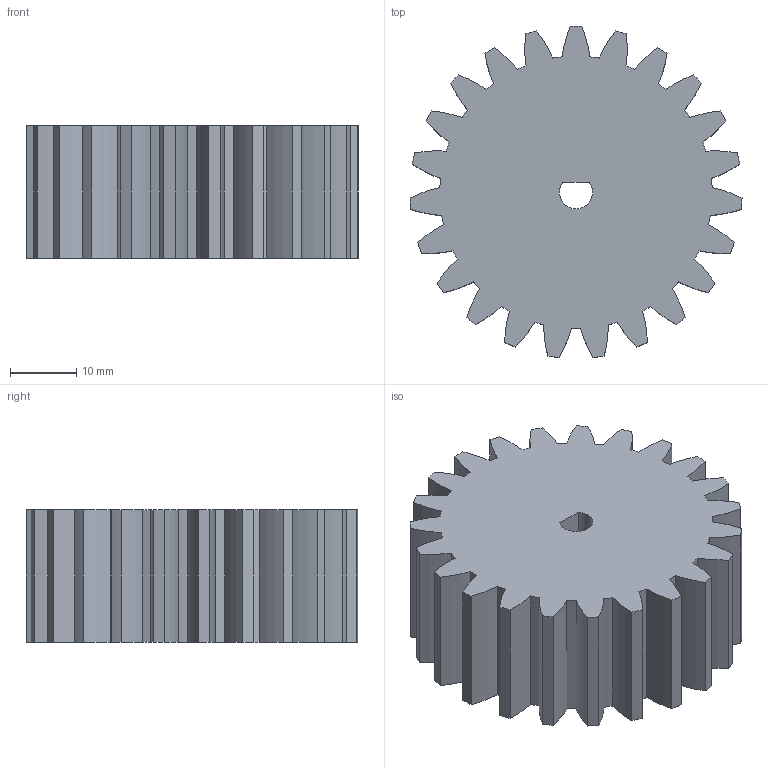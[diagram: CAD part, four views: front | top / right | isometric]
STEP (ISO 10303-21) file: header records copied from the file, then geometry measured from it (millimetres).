
FILE_DESCRIPTION(('STEP AP242'), '1');
FILE_NAME('Øåñòåð¸íêà ìàëåíüêàÿ', '', ('UNSPECIFIED'), ('UNSPECIFIED'), 'C3D Converter', 'C3D Toolkit', '');
FILE_SCHEMA(('AP242_MANAGED_MODEL_BASED_3D_ENGINEERING_MIM_LF { 1 0 10303 442 1 1 4 }'));
Length unit declared in the file: millimetre
Bounding box: 49.97 x 49.87 x 20 mm (x, y, z)
Volume: 32633.4 mm3; surface area: 9385.8 mm2
Topology: 1 solids, 1 shells, 96 faces, 282 edges, 188 vertices
Faces by surface type: cylinder 93, plane 3
Entity records: 3356 total; most frequent: DIRECTION 662, CARTESIAN_POINT 567, ORIENTED_EDGE 564, AXIS2_PLACEMENT_3D 283, EDGE_CURVE 282, VERTEX_POINT 188, CIRCLE 186, FACE_BOUND 98
